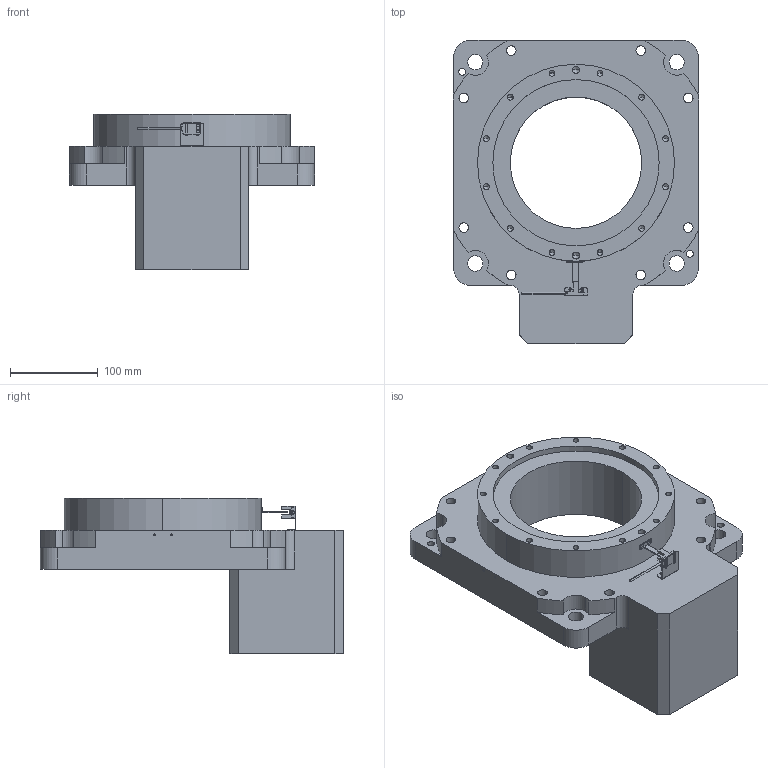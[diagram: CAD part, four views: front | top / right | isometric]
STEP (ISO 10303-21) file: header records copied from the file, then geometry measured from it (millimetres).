
FILE_DESCRIPTION (( 'STEP AP203' ), '1' );
FILE_NAME ('RTN280-10K-24-110-130-M8(115ÐÐÐÇ).STEP', '2024-05-21T10:33:08', ( '' ), ( '' ), 'SwSTEP 2.0', 'SolidWorks 2023', '' );
FILE_SCHEMA (( 'CONFIG_CONTROL_DESIGN' ));
Length unit declared in the file: millimetre
Products named in the file (1): RTN280-10K-24-110-130-M8(115行星)
Bounding box: 280 x 346.5 x 178 mm (x, y, z)
Volume: 5064274.9 mm3; surface area: 339732.1 mm2
Topology: 4 solids, 6 shells, 312 faces, 827 edges, 508 vertices
Faces by surface type: cylinder 150, plane 110, cone 52
Entity records: 9492 total; most frequent: DIRECTION 1699, CARTESIAN_POINT 1602, ORIENTED_EDGE 1550, EDGE_CURVE 775, AXIS2_PLACEMENT_3D 613, VERTEX_POINT 508, LINE 473, VECTOR 473
